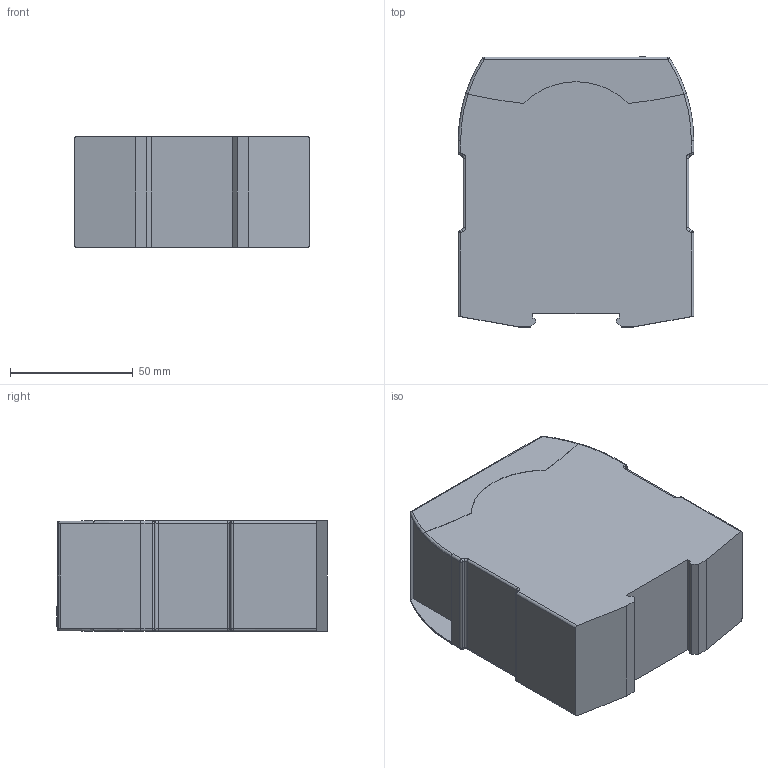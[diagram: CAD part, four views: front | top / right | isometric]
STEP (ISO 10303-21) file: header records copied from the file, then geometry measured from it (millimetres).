
FILE_DESCRIPTION((''),'2;1');
FILE_NAME('2022963','2016-06-24T',('merz'),(''),'PRO/ENGINEER BY PARAMETRIC TECHNOLOGY CORPORATION, 2015280','PRO/ENGINEER BY PARAMETRIC TECHNOLOGY CORPORATION, 2015280','');
FILE_SCHEMA(('AUTOMOTIVE_DESIGN { 1 0 10303 214 1 1 1 1 }'));
Length unit declared in the file: millimetre
Products named in the file (1): 2022963
Bounding box: 96 x 110.2 x 45 mm (x, y, z)
Volume: 424237.2 mm3; surface area: 39678.6 mm2
Topology: 1 solids, 1 shells, 142 faces, 358 edges, 236 vertices
Faces by surface type: plane 71, cylinder 42, torus 17, sphere 12
Entity records: 5755 total; most frequent: CARTESIAN_POINT 818, DIRECTION 737, ORIENTED_EDGE 692, PRESENTATION_STYLE_ASSIGNMENT 363, STYLED_ITEM 359, CURVE_STYLE 358, EDGE_CURVE 346, AXIS2_PLACEMENT_3D 253
